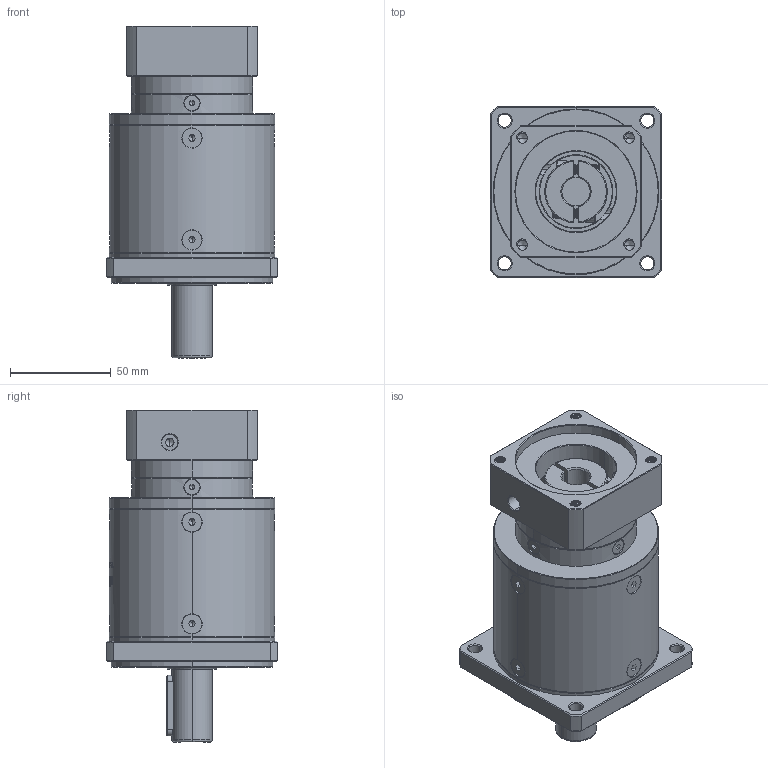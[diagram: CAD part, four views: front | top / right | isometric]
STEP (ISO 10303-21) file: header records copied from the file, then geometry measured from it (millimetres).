
FILE_DESCRIPTION (( 'STEP AP214' ), '1' );
FILE_NAME ('ZF80-D20-L3-14-60-75-M6.step', '2022-05-08T09:25:02', ( '' ), ( 'Microsoft' ), 'SwSTEP 2.0', 'SolidWorks 2016', '' );
FILE_SCHEMA (( 'AUTOMOTIVE_DESIGN' ));
Length unit declared in the file: millimetre
Products named in the file (1): ZF80-D20-L3-14-60-75-M6
Bounding box: 85 x 85 x 164.5 mm (x, y, z)
Volume: 584240.8 mm3; surface area: 75975 mm2
Topology: 18 solids, 18 shells, 2051 faces, 5361 edges, 3407 vertices
Faces by surface type: plane 953, cylinder 429, bspline 328, cone 327, torus 14
Entity records: 111187 total; most frequent: CARTESIAN_POINT 41739, ORIENTED_EDGE 10646, DIRECTION 8501, EDGE_CURVE 5323, VERTEX_POINT 3407, VECTOR 2867, LINE 2867, AXIS2_PLACEMENT_3D 2817
